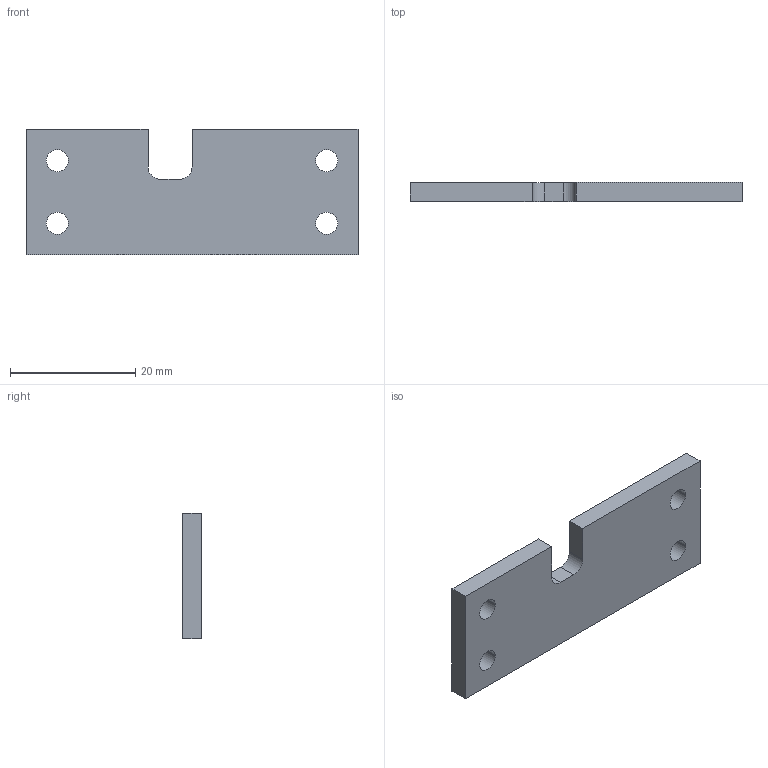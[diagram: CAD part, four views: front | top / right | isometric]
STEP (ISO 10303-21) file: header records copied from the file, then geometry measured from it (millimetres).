
FILE_DESCRIPTION(('CATIA V5 STEP Exchange'),'2;1');
FILE_NAME('C:\Users\hh\Desktop\新建文件夹 (2)\AGZ114.03_V1.stp','2024-11-15T05:29:10+00:00',('none'),('none'),'CATIA Version 5 Release 21 GA (IN-10)','CATIA V5 STEP AP214','none');
FILE_SCHEMA(('AUTOMOTIVE_DESIGN { 1 0 10303 214 1 1 1 1 }'));
Length unit declared in the file: millimetre
Products named in the file (1): 固定座05
Bounding box: 53 x 3 x 20 mm (x, y, z)
Volume: 2901.7 mm3; surface area: 2547.3 mm2
Topology: 1 solids, 1 shells, 20 faces, 57 edges, 39 vertices
Faces by surface type: plane 10, cylinder 10
Entity records: 665 total; most frequent: ORIENTED_EDGE 114, CARTESIAN_POINT 113, DIRECTION 89, EDGE_CURVE 57, VERTEX_POINT 39, AXIS2_PLACEMENT_3D 37, VECTOR 37, LINE 37
